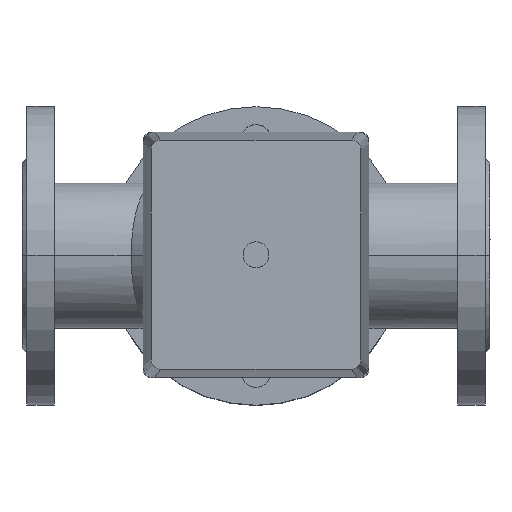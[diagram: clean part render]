
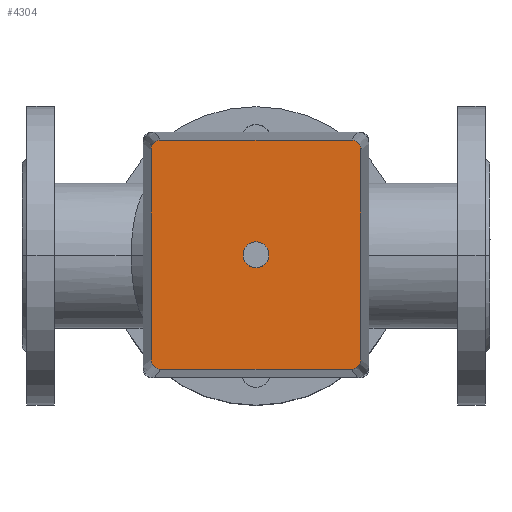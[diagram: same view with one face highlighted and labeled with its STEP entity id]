
A CAD part, top view. The second image highlights one B-rep face of the part: STEP entity #4304.
In plain terms, the highlighted planar face has unit normal (0, 0, 1).
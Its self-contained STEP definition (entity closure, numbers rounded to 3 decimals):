
#359=LINE('',#7425,#609);
#360=LINE('',#7429,#610);
#361=LINE('',#7433,#611);
#362=LINE('',#7437,#612);
#609=VECTOR('',#6024,304.8);
#610=VECTOR('',#6027,304.8);
#611=VECTOR('',#6030,304.8);
#612=VECTOR('',#6033,304.8);
#1078=FACE_OUTER_BOUND('',#1392,.T.);
#1392=EDGE_LOOP('',(#3583,#3584,#3585,#3586,#3587,#3588,#3589,#3590));
#1703=CIRCLE('',#4820,6.);
#1704=CIRCLE('',#4821,6.);
#1705=CIRCLE('',#4822,6.);
#1706=CIRCLE('',#4823,6.);
#2067=VERTEX_POINT('',#7423);
#2068=VERTEX_POINT('',#7424);
#2069=VERTEX_POINT('',#7426);
#2070=VERTEX_POINT('',#7428);
#2071=VERTEX_POINT('',#7430);
#2072=VERTEX_POINT('',#7432);
#2073=VERTEX_POINT('',#7434);
#2074=VERTEX_POINT('',#7436);
#2587=EDGE_CURVE('',#2067,#2068,#359,.T.);
#2588=EDGE_CURVE('',#2068,#2069,#1703,.T.);
#2589=EDGE_CURVE('',#2069,#2070,#360,.T.);
#2590=EDGE_CURVE('',#2070,#2071,#1704,.T.);
#2591=EDGE_CURVE('',#2071,#2072,#361,.T.);
#2592=EDGE_CURVE('',#2072,#2073,#1705,.T.);
#2593=EDGE_CURVE('',#2073,#2074,#362,.T.);
#2594=EDGE_CURVE('',#2074,#2067,#1706,.T.);
#3583=ORIENTED_EDGE('',*,*,#2587,.T.);
#3584=ORIENTED_EDGE('',*,*,#2588,.T.);
#3585=ORIENTED_EDGE('',*,*,#2589,.T.);
#3586=ORIENTED_EDGE('',*,*,#2590,.T.);
#3587=ORIENTED_EDGE('',*,*,#2591,.T.);
#3588=ORIENTED_EDGE('',*,*,#2592,.T.);
#3589=ORIENTED_EDGE('',*,*,#2593,.T.);
#3590=ORIENTED_EDGE('',*,*,#2594,.T.);
#3896=PLANE('',#4819);
#4304=ADVANCED_FACE('',(#1078),#3896,.T.);
#4819=AXIS2_PLACEMENT_3D('',#7422,#6022,#6023);
#4820=AXIS2_PLACEMENT_3D('',#7427,#6025,#6026);
#4821=AXIS2_PLACEMENT_3D('',#7431,#6028,#6029);
#4822=AXIS2_PLACEMENT_3D('',#7435,#6031,#6032);
#4823=AXIS2_PLACEMENT_3D('',#7438,#6034,#6035);
#6022=DIRECTION('center_axis',(0.,0.,1.));
#6023=DIRECTION('ref_axis',(0.,-1.,0.));
#6024=DIRECTION('',(0.,-1.,0.));
#6025=DIRECTION('center_axis',(0.,0.,1.));
#6026=DIRECTION('ref_axis',(1.,0.,0.));
#6027=DIRECTION('',(1.,0.,0.));
#6028=DIRECTION('center_axis',(0.,0.,1.));
#6029=DIRECTION('ref_axis',(1.,0.,0.));
#6030=DIRECTION('',(0.,1.,0.));
#6031=DIRECTION('center_axis',(0.,0.,1.));
#6032=DIRECTION('ref_axis',(1.,0.,0.));
#6033=DIRECTION('',(-1.,0.,0.));
#6034=DIRECTION('center_axis',(0.,0.,1.));
#6035=DIRECTION('ref_axis',(1.,0.,0.));
#7422=CARTESIAN_POINT('Origin',(0.,0.,
254.));
#7423=CARTESIAN_POINT('',(-71.,59.,254.));
#7424=CARTESIAN_POINT('',(-71.,-59.,254.));
#7425=CARTESIAN_POINT('',(-71.,-59.,254.));
#7426=CARTESIAN_POINT('',(-65.,-65.,254.));
#7427=CARTESIAN_POINT('Origin',(-65.,-59.,254.));
#7428=CARTESIAN_POINT('',(65.,-65.,254.));
#7429=CARTESIAN_POINT('',(65.,-65.,254.));
#7430=CARTESIAN_POINT('',(71.,-59.,254.));
#7431=CARTESIAN_POINT('Origin',(65.,-59.,254.));
#7432=CARTESIAN_POINT('',(71.,59.,254.));
#7433=CARTESIAN_POINT('',(71.,59.,254.));
#7434=CARTESIAN_POINT('',(65.,65.,254.));
#7435=CARTESIAN_POINT('Origin',(65.,59.,254.));
#7436=CARTESIAN_POINT('',(-65.,65.,254.));
#7437=CARTESIAN_POINT('',(-65.,65.,254.));
#7438=CARTESIAN_POINT('Origin',(-65.,59.,254.));
